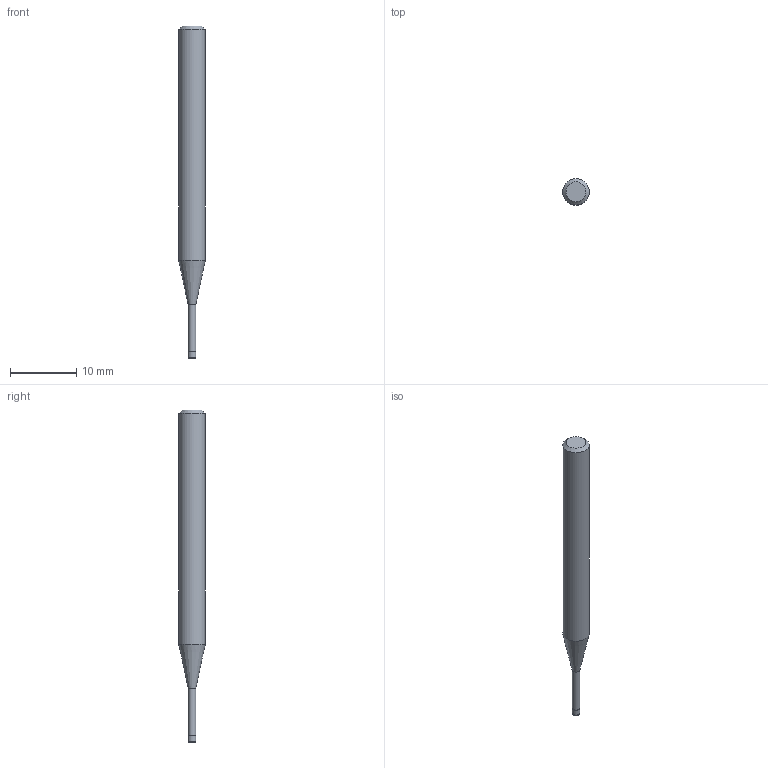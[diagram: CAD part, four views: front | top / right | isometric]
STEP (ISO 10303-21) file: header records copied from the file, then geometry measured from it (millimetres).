
FILE_DESCRIPTION((''),'2;1');
FILE_NAME('C:\Users\nsx150\AppData\Local\Temp\Mastercam 2021\17T8Q8S9EB\TEMP.step','2021-04-21T14:34:43',(''),(''),'STEP Write','Mastercam 2021 ... CNC Software, Inc.','');
FILE_SCHEMA(('AUTOMOTIVE_DESIGN'));
Length unit declared in the file: millimetre
Products named in the file (1): None
Bounding box: 4 x 4 x 50 mm (x, y, z)
Volume: 488.6 mm3; surface area: 539.3 mm2
Topology: 2 solids, 2 shells, 10 faces, 14 edges, 8 vertices
Faces by surface type: plane 4, cylinder 3, cone 2, torus 1
Full cylindrical faces by diameter (mm): 1.14 x1, 1.2 x1, 4 x1
Entity records: 232 total; most frequent: DIRECTION 40, CARTESIAN_POINT 28, AXIS2_PLACEMENT_3D 20, ORIENTED_EDGE 16, EDGE_LOOP 16, STYLED_ITEM 13, ADVANCED_FACE 10, FACE_BOUND 10
